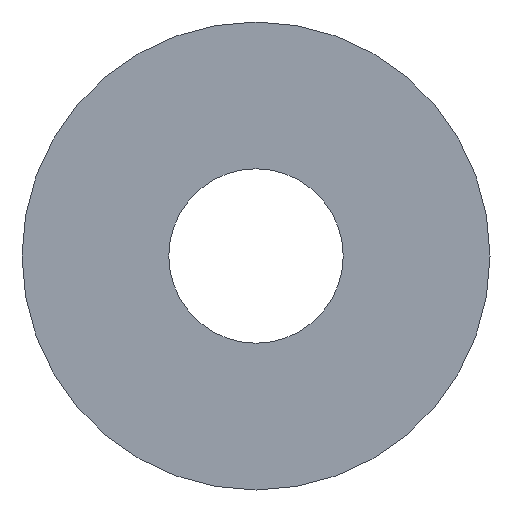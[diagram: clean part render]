
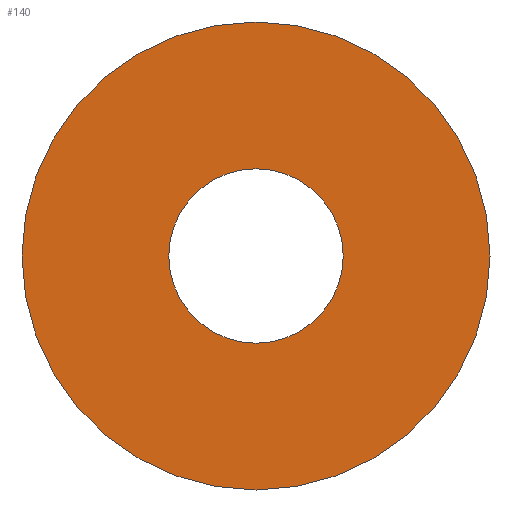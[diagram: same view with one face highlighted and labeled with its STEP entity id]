
A CAD part, front view. The second image highlights one B-rep face of the part: STEP entity #140.
In plain terms, the highlighted planar face has unit normal (0, -1, 0).
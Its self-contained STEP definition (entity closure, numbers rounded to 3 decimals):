
#31 = CYLINDRICAL_SURFACE('',#32,11.);
#32 = AXIS2_PLACEMENT_3D('',#33,#34,#35);
#33 = CARTESIAN_POINT('',(-132.,-40.,-16.));
#34 = DIRECTION('',(0.,1.,0.));
#35 = DIRECTION('',(0.,-0.,1.));
#56 = VERTEX_POINT('',#57);
#57 = CARTESIAN_POINT('',(-132.,-40.,-5.));
#78 = EDGE_CURVE('',#56,#56,#79,.T.);
#79 = SURFACE_CURVE('',#80,(#85,#92),.PCURVE_S1.);
#80 = CIRCLE('',#81,11.);
#81 = AXIS2_PLACEMENT_3D('',#82,#83,#84);
#82 = CARTESIAN_POINT('',(-132.,-40.,-16.));
#83 = DIRECTION('',(0.,1.,0.));
#84 = DIRECTION('',(0.,-0.,1.));
#85 = PCURVE('',#31,#86);
#86 = DEFINITIONAL_REPRESENTATION('',(#87),#91);
#87 = LINE('',#88,#89);
#88 = CARTESIAN_POINT('',(0.,0.));
#89 = VECTOR('',#90,1.);
#90 = DIRECTION('',(1.,0.));
#91 = ( GEOMETRIC_REPRESENTATION_CONTEXT(2) 
PARAMETRIC_REPRESENTATION_CONTEXT() REPRESENTATION_CONTEXT('2D SPACE',''
  ) );
#92 = PCURVE('',#93,#98);
#93 = PLANE('',#94);
#94 = AXIS2_PLACEMENT_3D('',#95,#96,#97);
#95 = CARTESIAN_POINT('',(-132.,-40.,-16.));
#96 = DIRECTION('',(0.,1.,0.));
#97 = DIRECTION('',(0.,-0.,1.));
#98 = DEFINITIONAL_REPRESENTATION('',(#99),#103);
#99 = CIRCLE('',#100,11.);
#100 = AXIS2_PLACEMENT_2D('',#101,#102);
#101 = CARTESIAN_POINT('',(0.,0.));
#102 = DIRECTION('',(1.,0.));
#103 = ( GEOMETRIC_REPRESENTATION_CONTEXT(2) 
PARAMETRIC_REPRESENTATION_CONTEXT() REPRESENTATION_CONTEXT('2D SPACE',''
  ) );
#129 = CYLINDRICAL_SURFACE('',#130,4.1);
#130 = AXIS2_PLACEMENT_3D('',#131,#132,#133);
#131 = CARTESIAN_POINT('',(-132.,-40.,-16.));
#132 = DIRECTION('',(0.,1.,0.));
#133 = DIRECTION('',(0.,-0.,1.));
#140 = ADVANCED_FACE('',(#141,#144),#93,.F.);
#141 = FACE_BOUND('',#142,.F.);
#142 = EDGE_LOOP('',(#143));
#143 = ORIENTED_EDGE('',*,*,#78,.T.);
#144 = FACE_BOUND('',#145,.F.);
#145 = EDGE_LOOP('',(#146));
#146 = ORIENTED_EDGE('',*,*,#147,.F.);
#147 = EDGE_CURVE('',#148,#148,#150,.T.);
#148 = VERTEX_POINT('',#149);
#149 = CARTESIAN_POINT('',(-132.,-40.,-11.9));
#150 = SURFACE_CURVE('',#151,(#156,#163),.PCURVE_S1.);
#151 = CIRCLE('',#152,4.1);
#152 = AXIS2_PLACEMENT_3D('',#153,#154,#155);
#153 = CARTESIAN_POINT('',(-132.,-40.,-16.));
#154 = DIRECTION('',(0.,1.,0.));
#155 = DIRECTION('',(0.,-0.,1.));
#156 = PCURVE('',#93,#157);
#157 = DEFINITIONAL_REPRESENTATION('',(#158),#162);
#158 = CIRCLE('',#159,4.1);
#159 = AXIS2_PLACEMENT_2D('',#160,#161);
#160 = CARTESIAN_POINT('',(0.,0.));
#161 = DIRECTION('',(1.,0.));
#162 = ( GEOMETRIC_REPRESENTATION_CONTEXT(2) 
PARAMETRIC_REPRESENTATION_CONTEXT() REPRESENTATION_CONTEXT('2D SPACE',''
  ) );
#163 = PCURVE('',#129,#164);
#164 = DEFINITIONAL_REPRESENTATION('',(#165),#169);
#165 = LINE('',#166,#167);
#166 = CARTESIAN_POINT('',(0.,0.));
#167 = VECTOR('',#168,1.);
#168 = DIRECTION('',(1.,0.));
#169 = ( GEOMETRIC_REPRESENTATION_CONTEXT(2) 
PARAMETRIC_REPRESENTATION_CONTEXT() REPRESENTATION_CONTEXT('2D SPACE',''
  ) );
